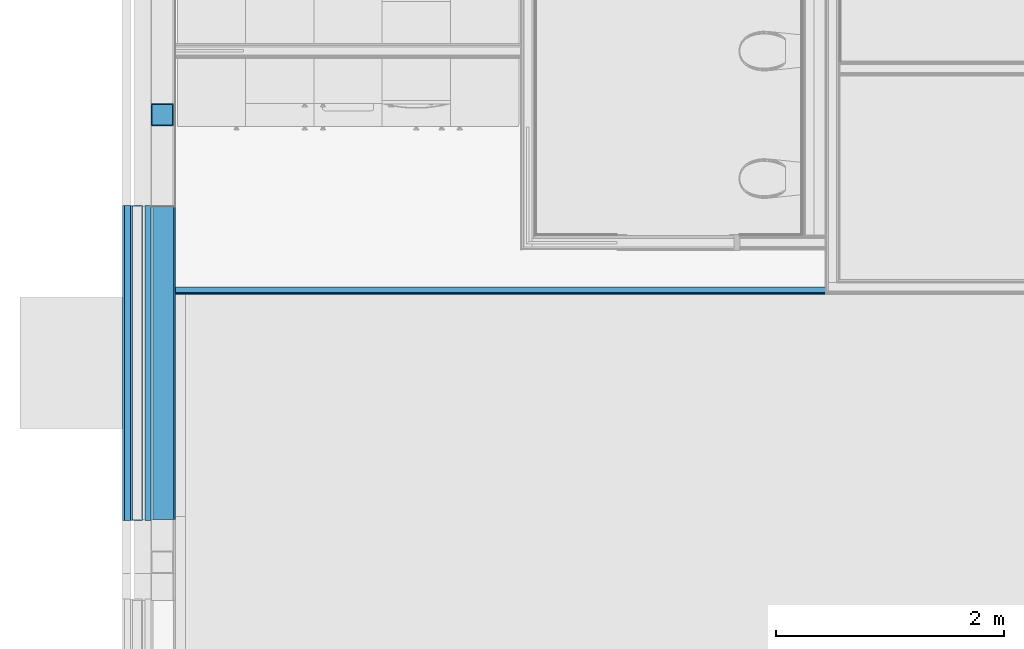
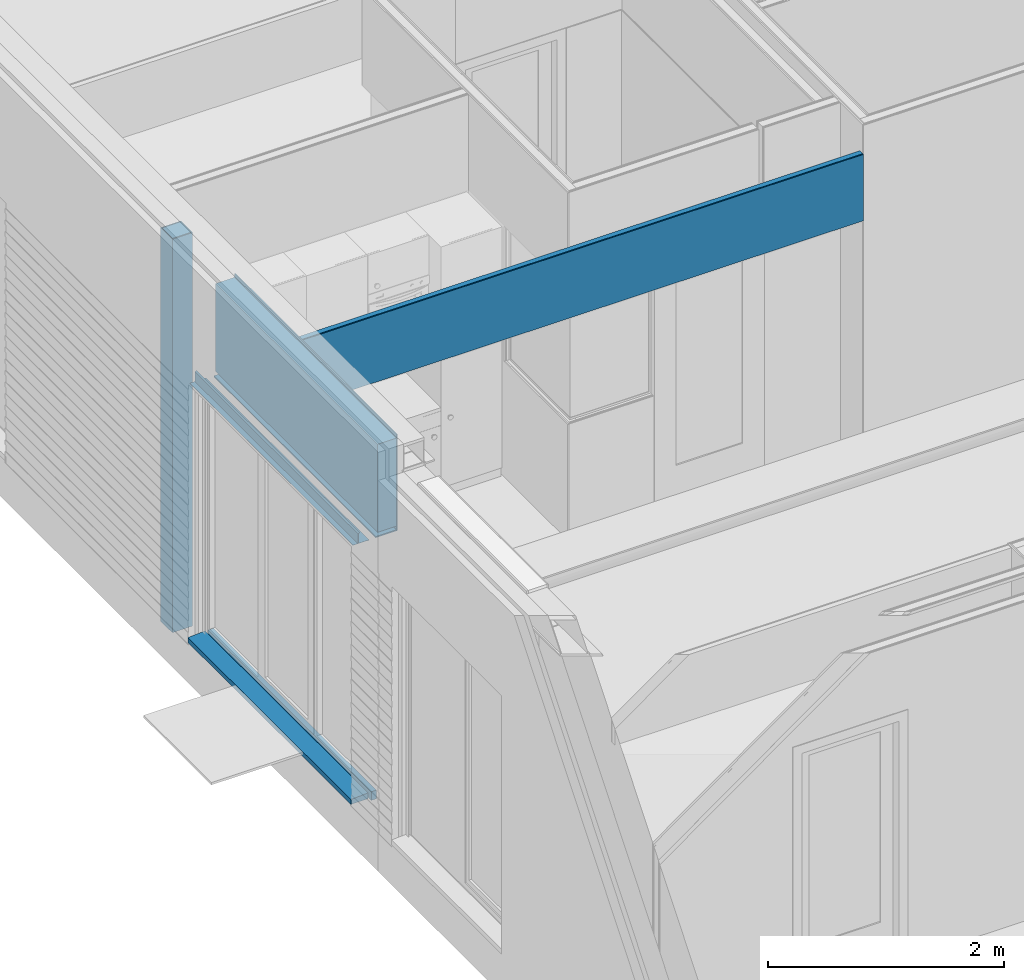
# One storey, part 51 of 165: 11 building element parts, 5 elements without a shape of their own.
"""IFC2X3 building model written with IfcOpenShell, lengths in millimetres."""

import ifcopenshell
import ifcopenshell.guid

model = None  # the IFC model being written
_history = None  # IfcOwnerHistory: only IFC2X3 demands one
_inside = {}  # id of a spatial element -> (the spatial element, [elements in it])
_under = {}  # id of a project, library or spatial element -> (it, [spatial elements below it])
_declared = {}  # id of a project -> (the project, [libraries it declares])
_typed = {}  # id of a type object -> (the type object, [elements of that type])
_made_of = {}  # id of a material, layer set ... -> (it, [elements and type objects made of it])


def new_model(schema):
    """Start an empty IFC model of exactly this schema.

    Asked for "IFC4X3", IfcOpenShell would pick the latest addendum, in which some entities
    have other attributes; the version numbers below select the first issue.
    IFC2X3 requires an IfcOwnerHistory on every rooted entity: one is made here for all.
    """
    global model, _history
    if schema == "IFC4X3":
        model = ifcopenshell.file(schema_version=(4, 3, 0, 0))
    else:
        model = ifcopenshell.file(schema=schema)
    _inside.clear()
    _under.clear()
    _declared.clear()
    _typed.clear()
    _made_of.clear()
    _history = None
    if model.schema == "IFC2X3":
        org = make("IfcOrganization", Name="unknown")
        user = make(
            "IfcPersonAndOrganization",
            ThePerson=make("IfcPerson", FamilyName="unknown"),
            TheOrganization=org,
        )
        app = make(
            "IfcApplication",
            ApplicationDeveloper=org,
            Version="unknown",
            ApplicationFullName="unknown",
            ApplicationIdentifier="unknown",
        )
        _history = make(
            "IfcOwnerHistory",
            OwningUser=user,
            OwningApplication=app,
            ChangeAction="ADDED",
            CreationDate=0,
        )
    return model


def make(cls, **values):
    """One entity of the class cls with the attributes given. An attribute that is None is left unset."""
    return model.create_entity(
        cls, **{name: value for name, value in values.items() if value is not None}
    )


def entity(cls, *values):
    """Any entity or typed value of the class cls, its attributes in the order of the schema. None: left unset."""
    e = model.create_entity(cls)
    for i, value in enumerate(values):
        if value is not None:
            e[i] = value
    return e


def rooted(cls, **values):
    """An entity with a GlobalId (a new one), such as an element, a storey or a relation."""
    return make(cls, GlobalId=ifcopenshell.guid.new(), OwnerHistory=_history, **values)


def si_unit(unit_type, name, prefix=None):
    """IfcSIUnit, for example si_unit("LENGTHUNIT", "METRE", prefix="MILLI")."""
    return make("IfcSIUnit", UnitType=unit_type, Prefix=prefix, Name=name)


def converted_unit(unit_type, name, factor, base, dimensions=None, offset=None):
    """IfcConversionBasedUnit, such as the inch: factor (a typed value) times the base unit."""
    return make(
        "IfcConversionBasedUnit"
        if offset is None
        else "IfcConversionBasedUnitWithOffset",
        ConversionOffset=offset,
        Dimensions=None
        if dimensions is None
        else entity("IfcDimensionalExponents", *dimensions),
        UnitType=unit_type,
        Name=name,
        ConversionFactor=make(
            "IfcMeasureWithUnit", ValueComponent=factor, UnitComponent=base
        ),
    )


def derived_unit(unit_type, elements):
    """IfcDerivedUnit: a product of units, each with its exponent."""
    return make(
        "IfcDerivedUnit",
        Elements=[
            make("IfcDerivedUnitElement", Unit=unit, Exponent=power)
            for unit, power in elements
        ],
        UnitType=unit_type,
    )


def money_unit(currency):
    """IfcMonetaryUnit."""
    return make("IfcMonetaryUnit", Currency=currency)


def assignment(units):
    """IfcUnitAssignment: the units of a project."""
    return None if units is None else make("IfcUnitAssignment", Units=units)


def point(xyz):
    """IfcCartesianPoint."""
    return None if xyz is None else make("IfcCartesianPoint", Coordinates=xyz)


def direction(xyz):
    """IfcDirection."""
    return None if xyz is None else make("IfcDirection", DirectionRatios=xyz)


def frame(location, z_axis=None, x_axis=None):
    """IfcAxis2Placement3D, a coordinate frame: its origin and axes. An axis left out is left unset."""
    return make(
        "IfcAxis2Placement3D",
        Location=point(location),
        Axis=direction(z_axis),
        RefDirection=direction(x_axis),
    )


def origin_with_axes():
    """The frame at (0, 0, 0) with the z axis (0, 0, 1) and the x axis (1, 0, 0) written out."""
    return frame((0.0, 0.0, 0.0), z_axis=(0.0, 0.0, 1.0), x_axis=(1.0, 0.0, 0.0))


def place(relative_to, where):
    """IfcLocalPlacement: puts the frame where relative to a parent placement (None: the world)."""
    return make(
        "IfcLocalPlacement", PlacementRelTo=relative_to, RelativePlacement=where
    )


def context(
    kind, dimensions, precision=None, world=None, true_north=None, identifier=None
):
    """IfcGeometricRepresentationContext, for example the 3D "Model" context."""
    return make(
        "IfcGeometricRepresentationContext",
        ContextIdentifier=identifier,
        ContextType=kind,
        CoordinateSpaceDimension=dimensions,
        Precision=precision,
        WorldCoordinateSystem=world,
        TrueNorth=true_north,
    )


def subcontext(parent, identifier, kind, view, scale=None):
    """IfcGeometricRepresentationSubContext, for example "Body" below "Model"."""
    return make(
        "IfcGeometricRepresentationSubContext",
        ContextIdentifier=identifier,
        ContextType=kind,
        ParentContext=parent,
        TargetScale=scale,
        TargetView=view,
    )


def project(units=None, contexts=None):
    """IfcProject with its units and contexts."""
    return rooted(
        "IfcProject",
        Name="project",
        RepresentationContexts=contexts,
        UnitsInContext=assignment(units),
    )


def spatial(cls, under=None, at=None, **own):
    """A site, building, storey or space (cls), placed at a placement, below another one or the project."""
    s = rooted(cls, ObjectPlacement=at, **own)
    if under is not None:
        _under.setdefault(under.id(), (under, []))[1].append(s)
    return s


def faces_of(points, faces, orient=None, outer=None):
    """IfcFace entities. A face is a list of loops; a loop is a list of indices into points, from 0.

    orient and outer hold one flag for each loop. By default every Orientation is true, the
    first loop of a face is its IfcFaceOuterBound and the others are IfcFaceBound.
    """
    made = []
    for i, loops in enumerate(faces):
        bounds = []
        for j, loop in enumerate(loops):
            is_outer = j == 0 if outer is None else outer[i][j]
            bounds.append(
                make(
                    "IfcFaceOuterBound" if is_outer else "IfcFaceBound",
                    Bound=make("IfcPolyLoop", Polygon=[points[k] for k in loop]),
                    Orientation=True if orient is None else orient[i][j],
                )
            )
        made.append(make("IfcFace", Bounds=bounds))
    return made


def faceted_brep(points, faces, orient=None, outer=None, voids=None):
    """IfcFacetedBrep: a solid bounded by flat faces; with voids (closed shells), ...WithVoids."""
    shared = [point(p) for p in points]
    hull = make("IfcClosedShell", CfsFaces=faces_of(shared, faces, orient, outer))
    if voids is None:
        return make("IfcFacetedBrep", Outer=hull)
    return make(
        "IfcFacetedBrepWithVoids",
        Outer=hull,
        Voids=[
            make(cls, CfsFaces=faces_of(shared, fs, o, b)) for cls, fs, o, b in voids
        ],
    )


def shape(context_of_items, identifier, shape_type, items):
    """IfcShapeRepresentation: the items that make up one representation, for example the "Body"."""
    return make(
        "IfcShapeRepresentation",
        ContextOfItems=context_of_items,
        RepresentationIdentifier=identifier,
        RepresentationType=shape_type,
        Items=items,
    )


def material(Name=None, Category=None):
    """IfcMaterial."""
    return make("IfcMaterial", Name=Name, Category=Category)


def made_of(thing, what):
    """Note that an element or type object is made of a material, layer set ...; save() writes the relation."""
    if what is not None:
        _made_of.setdefault(what.id(), (what, []))[1].append(thing)
    return thing


def type_object(cls, material=None, **own):
    """A type object (cls), such as IfcWallType, which elements share."""
    return made_of(rooted(cls, **own), material)


def element(
    cls,
    number,
    at=None,
    inside=None,
    cuts=None,
    type_object=None,
    material=None,
    context=None,
    identifier="Body",
    shape_type=None,
    held_by="IfcProductDefinitionShape",
    body=None,
    shapes=None,
    **own,
):
    """One element of the class cls, such as IfcWall. Its Tag is "e" and its number.

    at: its placement. inside: the storey or other place that contains it. cuts: it is an
    opening in that element (IfcRelVoidsElement). A single representation is given by context,
    identifier, shape_type and body (its items); several are given by shapes. held_by: the class
    of the entity that holds the representations. save() writes the other relations.
    """
    e = rooted(cls, Tag="e%d" % number, ObjectPlacement=at, **own)
    if body is not None:
        shapes = [shape(context, identifier, shape_type, body)]
    if shapes is not None:
        e.Representation = make(held_by, Representations=shapes)
    if inside is not None:
        _inside.setdefault(inside.id(), (inside, []))[1].append(e)
    if cuts is not None:
        rooted(
            "IfcRelVoidsElement", RelatingBuildingElement=cuts, RelatedOpeningElement=e
        )
    if type_object is not None:
        _typed.setdefault(type_object.id(), (type_object, []))[1].append(e)
    return made_of(e, material)


def aggregate(whole, parts):
    """IfcRelAggregates: a whole, such as a stair, and the parts it consists of."""
    return rooted("IfcRelAggregates", RelatingObject=whole, RelatedObjects=parts)


def save(model, path):
    """Write the relations noted so far, then the file.

    IfcRelAggregates (storeys below a building ...), IfcRelContainedInSpatialStructure (elements
    in a storey), IfcRelDefinesByType, IfcRelAssociatesMaterial and IfcRelDeclares: one each for
    every whole, place, type object, material and project.
    """
    for whole, parts in _under.values():
        aggregate(whole, parts)
    for where, things in _inside.values():
        rooted(
            "IfcRelContainedInSpatialStructure",
            RelatedElements=things,
            RelatingStructure=where,
        )
    for kind, things in _typed.values():
        rooted("IfcRelDefinesByType", RelatedObjects=things, RelatingType=kind)
    for what, things in _made_of.values():
        rooted("IfcRelAssociatesMaterial", RelatedObjects=things, RelatingMaterial=what)
    for by, libraries in _declared.values():
        rooted("IfcRelDeclares", RelatingContext=by, RelatedDefinitions=libraries)
    model.write(path)


model = new_model("IFC2X3")

# Units and contexts
model_context = context("Model", 3, precision=0.01, world=origin_with_axes(), true_north=direction((0.0, 1.0)))
body_context = subcontext(model_context, "Body", "Model", "MODEL_VIEW")
ifc_project = project(units=[si_unit("LENGTHUNIT", "METRE", prefix="MILLI"), si_unit("AREAUNIT", "SQUARE_METRE"), si_unit("VOLUMEUNIT", "CUBIC_METRE"), converted_unit("PLANEANGLEUNIT", "DEGREE", entity("IfcPlaneAngleMeasure", 0.0174532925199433), si_unit("PLANEANGLEUNIT", "RADIAN"), dimensions=[0, 0, 0, 0, 0, 0, 0]), money_unit("EUR"), converted_unit("TIMEUNIT", "Year", entity("IfcTimeMeasure", 31556926.0), si_unit("TIMEUNIT", "SECOND"), dimensions=[0, 0, 1, 0, 0, 0, 0]), si_unit("MASSUNIT", "GRAM", prefix="KILO"), si_unit("THERMODYNAMICTEMPERATUREUNIT", "DEGREE_CELSIUS"), si_unit("LUMINOUSINTENSITYUNIT", "LUMEN"), si_unit("ENERGYUNIT", "JOULE", prefix="MEGA"), derived_unit("THERMALCONDUCTANCEUNIT", [(si_unit("POWERUNIT", "WATT"), 1), (si_unit("LENGTHUNIT", "METRE"), -1), (si_unit("THERMODYNAMICTEMPERATUREUNIT", "KELVIN"), -1)]), derived_unit("SPECIFICHEATCAPACITYUNIT", [(si_unit("ENERGYUNIT", "JOULE"), 1), (si_unit("MASSUNIT", "GRAM", prefix="KILO"), -1), (si_unit("THERMODYNAMICTEMPERATUREUNIT", "KELVIN"), -1)]), derived_unit("MASSDENSITYUNIT", [(si_unit("MASSUNIT", "GRAM", prefix="KILO"), 1), (si_unit("VOLUMEUNIT", "CUBIC_METRE"), -1)])], contexts=[model_context])

# Site, building, storey
site_placement = place(None, origin_with_axes())
site = spatial("IfcSite", under=ifc_project, at=site_placement, Name="Site", CompositionType="ELEMENT")
building_placement = place(site_placement, origin_with_axes())
building = spatial("IfcBuilding", under=site, at=building_placement, Name="Naam gebouw", CompositionType="ELEMENT")
storey_placement = place(building_placement, origin_with_axes())
storey = spatial("IfcBuildingStorey", under=building, at=storey_placement, Name="Begane grond", CompositionType="ELEMENT", Elevation=0.0)

# Column, building element parts
column_type = type_object("IfcColumnType", Name="200X200X10 200 x 200", PredefinedType="COLUMN")
column_placement = place(storey_placement, frame((99.99999999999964, 10810.00011055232, -480.0), z_axis=(0.0, 0.0, 1.0), x_axis=(1.0, 0.0, 0.0)))
column = element("IfcColumn", 1, at=column_placement, inside=storey, type_object=column_type, Name="28_Kolom-x", ObjectType="COLUMN")
ifc_material_1 = material(Name="Beton gewapend C")
building_element_part_1_placement = place(column_placement, origin_with_axes())
building_element_part_1 = element("IfcBuildingElementPart", 2, at=building_element_part_1_placement, material=ifc_material_1, Name="Beton gewapend C", context=body_context, shape_type="Brep", body=[
    faceted_brep([(-89.99999999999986, 89.99999999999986, 4059.999999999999), (89.99999999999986, 89.99999999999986, 4059.999999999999), (89.99999999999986, 89.99999999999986, 0.0), (-89.99999999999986, 89.99999999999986, 0.0), (89.99999999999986, -89.99999999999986, 4059.999999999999), (-89.99999999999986, -89.99999999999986, 4059.999999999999), (89.99999999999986, -89.99999999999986, 0.0), (-89.99999999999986, -89.99999999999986, 0.0)], [[[0, 1, 2, 3]], [[4, 1, 0, 5]], [[1, 4, 6, 2]], [[2, 6, 7, 3]], [[5, 0, 3, 7]], [[4, 5, 7, 6]]]),
    faceted_brep([(89.99999999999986, -89.99999999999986, 4074.999999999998), (89.99999999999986, 89.99999999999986, 4074.999999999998), (89.99999999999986, 89.99999999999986, 4079.999999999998), (89.99999999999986, -89.99999999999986, 4079.999999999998), (-89.99999999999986, 89.99999999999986, 4074.999999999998), (-89.99999999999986, -89.99999999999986, 4074.999999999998), (-89.99999999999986, 89.99999999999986, 4079.999999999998), (-89.99999999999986, -89.99999999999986, 4079.999999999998)], [[[0, 1, 2, 3]], [[4, 1, 0, 5]], [[1, 4, 6, 2]], [[2, 6, 7, 3]], [[5, 0, 3, 7]], [[4, 5, 7, 6]]]),
])
ifc_material_2 = material(Name="Metaal - Staal C")
building_element_part_2_placement = place(column_placement, origin_with_axes())
building_element_part_2 = element("IfcBuildingElementPart", 3, at=building_element_part_2_placement, material=ifc_material_2, Name="Metaal - Staal C", context=body_context, shape_type="Brep", body=[
    faceted_brep([(-100.0, -99.99999999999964, 0.0), (100.0, -99.99999999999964, 0.0), (100.0, -99.99999999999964, 4079.999999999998), (-100.0, -99.99999999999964, 4079.999999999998), (-100.0, 99.99999999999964, 0.0), (100.0, 99.99999999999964, 0.0), (-90.00000000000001, -89.99999999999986, 0.0), (90.00000000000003, -89.99999999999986, 0.0), (90.00000000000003, 89.99999999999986, 0.0), (-90.00000000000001, 89.99999999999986, 0.0), (100.0, 99.99999999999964, 4079.999999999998), (-100.0, 99.99999999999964, 4079.999999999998), (-90.00000000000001, -89.99999999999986, 4079.999999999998), (-90.00000000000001, 89.99999999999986, 4079.999999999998), (90.00000000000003, 89.99999999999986, 4079.999999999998), (90.00000000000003, -89.99999999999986, 4079.999999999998)], [[[0, 1, 2, 3]], [[0, 4, 5, 1], [6, 7, 8, 9]], [[1, 5, 10, 2]], [[3, 2, 10, 11], [12, 13, 14, 15]], [[4, 0, 3, 11]], [[5, 4, 11, 10]], [[7, 6, 12, 15]], [[8, 7, 15, 14]], [[9, 8, 14, 13]], [[6, 9, 13, 12]]]),
])
aggregate(column, [building_element_part_1, building_element_part_2])

# Proxy, building element parts
building_element_proxy_type = type_object("IfcBuildingElementProxyType", Name="22 Metal stud 62.5 plafond 63", PredefinedType="NOTDEFINED")
proxy_placement = place(storey_placement, frame((5924.999597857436, 9234.99995614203, 2600.0), z_axis=(0.0, 0.0, 1.0), x_axis=(-1.0, 0.0, 0.0)))
proxy = element("IfcBuildingElementProxy", 4, at=proxy_placement, inside=storey, type_object=building_element_proxy_type, Name="_Wand-x")
ifc_material_3 = material(Name="Gipsplaat")
building_element_part_3_placement = place(proxy_placement, origin_with_axes())
building_element_part_3 = element("IfcBuildingElementPart", 5, at=building_element_part_3_placement, material=ifc_material_3, Name="Gipsplaat", context=body_context, shape_type="Brep", body=[
    faceted_brep([(1.751028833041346e-05, -3.750208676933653e-05, 12.00000000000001), (-9.765858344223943e-06, -12.49999999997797, 12.00000000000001), (0.0, -12.49999999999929, 699.9999999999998), (0.0, 0.0, 699.9999999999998), (5710.999571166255, -12.49999999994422, 12.00000000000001), (5710.999597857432, 0.0004731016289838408, 12.00000000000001), (5710.999597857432, -12.50000000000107, 699.9999999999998), (5710.999597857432, 0.0, 699.9999999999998)], [[[0, 1, 2, 3]], [[4, 1, 0, 5]], [[1, 4, 6, 2]], [[2, 6, 7, 3]], [[5, 0, 3, 7]], [[4, 5, 7, 6]]]),
])
ifc_material_4 = material(Name="ALG - LICHTE SCHEIDINGSWAND")
building_element_part_4_placement = place(proxy_placement, origin_with_axes())
building_element_part_4 = element("IfcBuildingElementPart", 6, at=building_element_part_4_placement, material=ifc_material_4, Name="ALG - LICHTE SCHEIDINGSWAND", context=body_context, shape_type="Brep", body=[
    faceted_brep([(-9.765858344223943e-06, -12.49999999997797, 12.00000000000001), (-0.0001188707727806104, -62.49999999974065, 12.00000000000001), (0.0, -62.5, 699.9999999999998), (0.0, -12.49999999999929, 699.9999999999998), (5710.999464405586, -62.49999999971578, 12.00000000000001), (5710.999571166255, -12.49999999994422, 12.00000000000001), (5710.999597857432, -62.5, 699.9999999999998), (5710.999597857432, -12.50000000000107, 699.9999999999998)], [[[0, 1, 2, 3]], [[4, 1, 0, 5]], [[1, 4, 6, 2]], [[2, 6, 7, 3]], [[5, 0, 3, 7]], [[4, 5, 7, 6]]]),
])
aggregate(proxy, [building_element_part_3, building_element_part_4])

# Beam, building element part
beam_type_1 = type_object("IfcBeamType", Name="41 Latei/geveldrager 158 x 112", PredefinedType="BEAM")
beam_1_placement = place(storey_placement, frame((-179.9999850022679, 7245.0, 2610.0), z_axis=(0.0, 0.0, 1.0), x_axis=(1.0, 0.0, 0.0)))
beam_1 = element("IfcBeam", 7, at=beam_1_placement, inside=storey, type_object=beam_type_1, Name="_Regenwaterafvoer-x", ObjectType="BEAM")
building_element_part_5_placement = place(beam_1_placement, origin_with_axes())
building_element_part_5 = element("IfcBuildingElementPart", 8, at=building_element_part_5_placement, material=ifc_material_2, Name="Metaal - Staal C", context=body_context, shape_type="Brep", body=[
    faceted_brep([(-49.99999999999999, 2769.99999999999, 6.55651533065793e-07), (-49.99999999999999, 2769.99999999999, -3.000000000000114), (-49.99999999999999, 0.0, -3.000000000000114), (-49.99999999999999, 0.0, 6.55651533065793e-07), (-5.960468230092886e-08, 2769.99999999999, 6.55651533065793e-07), (-5.960468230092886e-08, 2769.99999999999, 99.3417707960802), (16.54654975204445, 2769.99999999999, 108.894926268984), (18.04655007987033, 2769.99999999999, 106.296849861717), (3.000000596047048, 2769.99999999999, 96.99999988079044), (3.000000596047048, 2769.99999999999, 6.55651533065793e-07), (3.000000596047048, 2769.99999999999, -3.000000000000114), (3.000000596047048, 0.0, -3.000000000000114), (3.000000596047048, 0.0, 6.55651533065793e-07), (3.000000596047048, 0.0, 96.99999988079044), (18.04655007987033, 0.0, 106.296849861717), (16.54654975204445, 0.0, 108.894926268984), (-5.960468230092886e-08, 0.0, 99.3417707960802), (-5.960468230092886e-08, 0.0, 6.55651533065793e-07)], [[[0, 1, 2, 3]], [[0, 4, 5, 6, 7, 8, 9, 10, 1]], [[1, 10, 11, 2]], [[3, 2, 11, 12, 13, 14, 15, 16, 17]], [[4, 0, 3, 17]], [[5, 4, 17, 16]], [[6, 5, 16, 15]], [[7, 6, 15, 14]], [[8, 7, 14, 13]], [[9, 8, 13, 12]], [[10, 9, 12, 11]]]),
])

beam_type_2 = type_object("IfcBeamType", Name="31 Betondorpel 250 x 90", PredefinedType="BEAM")
beam_2_placement = place(storey_placement, frame((-249.9999999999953, 7245.0, -100.0000000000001), z_axis=(0.0, 0.0, 1.0), x_axis=(1.0, 0.0, 0.0)))
beam_2 = element("IfcBeam", 9, at=beam_2_placement, inside=storey, type_object=beam_type_2, Name="_Regenwaterafvoer-x", ObjectType="BEAM")
ifc_material_5 = material(Name="Isolatie - Kunststof hard")
building_element_part_6_placement = place(beam_2_placement, origin_with_axes())
building_element_part_6 = element("IfcBuildingElementPart", 10, at=building_element_part_6_placement, material=ifc_material_5, Name="Isolatie - Kunststof hard", context=body_context, shape_type="Brep", body=[
    faceted_brep([(200.0, 2769.999999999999, 0.0), (250.0, 2769.999999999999, 0.0), (250.0, 0.0, 0.0), (200.0, 0.0, 0.0), (200.0, 2769.999999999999, 30.04212815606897), (200.0, 2769.999999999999, 90.00000000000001), (250.0, 2769.999999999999, 90.00000000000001), (250.0, 0.0, 90.00000000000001), (200.0, 0.0, 90.00000000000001), (200.0, 0.0, 30.04212815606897)], [[[0, 1, 2, 3]], [[0, 4, 5, 6, 1]], [[1, 6, 7, 2]], [[3, 2, 7, 8, 9]], [[4, 0, 3, 9]], [[5, 4, 9, 8]], [[6, 5, 8, 7]]]),
])

# Building element part
building_element_part_7_placement = place(beam_1_placement, origin_with_axes())
building_element_part_7 = element("IfcBuildingElementPart", 11, at=building_element_part_7_placement, material=ifc_material_2, Name="Metaal - Staal C", context=body_context, shape_type="Brep", body=[
    faceted_brep([(3.000000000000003, 2769.99999999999, -3.000000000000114), (108.0, 2769.99999999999, -3.000000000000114), (108.0, 0.0, -3.000000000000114), (3.000000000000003, 0.0, -3.000000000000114), (3.000000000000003, 2769.99999999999, 0.0), (108.0, 2769.99999999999, 0.0), (108.0, 0.0, 0.0), (3.000000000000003, 0.0, 0.0)], [[[0, 1, 2, 3]], [[0, 4, 5, 1]], [[1, 5, 6, 2]], [[3, 2, 6, 7]], [[4, 0, 3, 7]], [[5, 4, 7, 6]]]),
])

aggregate(beam_1, [building_element_part_5, building_element_part_7])

ifc_material_6 = material(Name="Beton gewapend prefab")
building_element_part_8_placement = place(beam_2_placement, origin_with_axes())
building_element_part_8 = element("IfcBuildingElementPart", 12, at=building_element_part_8_placement, material=ifc_material_6, Name="Beton gewapend prefab", context=body_context, shape_type="Brep", body=[
    faceted_brep([(0.0, 2769.999999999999, 30.04212834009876), (170.0, 2769.999999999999, 30.04212834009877), (170.0, 0.0, 30.04212834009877), (0.0, 0.0, 30.04212834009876), (0.0, 2769.999999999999, 80.04212834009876), (170.0, 2769.999999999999, 90.04212834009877), (170.0, 2769.999999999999, 90.00000000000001), (170.0, 0.0, 90.00000000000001), (170.0, 0.0, 90.04212834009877), (0.0, 0.0, 80.04212834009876)], [[[0, 1, 2, 3]], [[0, 4, 5, 6, 1]], [[1, 6, 7, 2]], [[3, 2, 7, 8, 9]], [[4, 0, 3, 9]], [[5, 4, 9, 8]], [[6, 5, 8, 7]]]),
])

aggregate(beam_2, [building_element_part_6, building_element_part_8])

# Beam, building element parts
beam_type_3 = type_object("IfcBeamType", Name="31 HSB boven kozijnen 214 x 1000", PredefinedType="BEAM")
beam_3_placement = place(storey_placement, frame((214.0000000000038, 10005.0, 2600.000000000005), z_axis=(0.0, 0.0, 1.0), x_axis=(-1.0, 0.0, 0.0)))
beam_3 = element("IfcBeam", 13, at=beam_3_placement, inside=storey, type_object=beam_type_3, Name="28_Balk-x", ObjectType="BEAM")
building_element_part_9_placement = place(beam_3_placement, origin_with_axes())
building_element_part_9 = element("IfcBuildingElementPart", 14, at=building_element_part_9_placement, material=ifc_material_3, Name="Gipsplaat", context=body_context, shape_type="Brep", body=[
    faceted_brep([(11.99999661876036, 2750.0, 999.9999999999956), (-9.34170973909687e-06, 2750.0, 999.9999999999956), (-9.34170973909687e-06, 0.0, 999.9999999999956), (11.99999661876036, 0.0, 999.9999999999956), (11.99999661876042, 2750.0, 0.0), (-9.34170968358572e-06, 2750.0, 0.0), (-9.34170968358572e-06, 0.0, 0.0), (11.99999661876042, 0.0, 0.0)], [[[0, 1, 2, 3]], [[0, 4, 5, 1]], [[1, 5, 6, 2]], [[3, 2, 6, 7]], [[4, 0, 3, 7]], [[5, 4, 7, 6]]]),
])
ifc_material_7 = material(Name="ALG - ISOLATIE")
building_element_part_10_placement = place(beam_3_placement, origin_with_axes())
building_element_part_10 = element("IfcBuildingElementPart", 15, at=building_element_part_10_placement, material=ifc_material_7, Name="ALG - ISOLATIE", context=body_context, shape_type="Brep", body=[
    faceted_brep([(195.9999999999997, 2750.0, 49.99999999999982), (195.9999999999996, 2750.0, 961.9999999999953), (195.9999999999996, 0.0, 961.9999999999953), (195.9999999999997, 0.0, 49.99999999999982), (11.99999999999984, 2750.0, 49.99999999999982), (11.99999999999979, 2750.0, 961.9999999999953), (11.99999999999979, 0.0, 961.9999999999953), (11.99999999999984, 0.0, 49.99999999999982)], [[[0, 1, 2, 3]], [[0, 4, 5, 1]], [[1, 5, 6, 2]], [[3, 2, 6, 7]], [[4, 0, 3, 7]], [[5, 4, 7, 6]]]),
])
building_element_part_11_placement = place(beam_3_placement, origin_with_axes())
building_element_part_11 = element("IfcBuildingElementPart", 16, at=building_element_part_11_placement, material=ifc_material_3, Name="Gipsplaat", context=body_context, shape_type="Brep", body=[
    faceted_brep([(11.99999661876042, 2750.0, 12.00000596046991), (11.99999661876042, 2750.0, 0.0), (11.99999661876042, 0.0, 0.0), (11.99999661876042, 0.0, 12.00000596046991), (214.0000025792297, 2750.0, 12.00000596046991), (214.0000025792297, 2750.0, 0.0), (214.0000025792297, 0.0, 0.0), (214.0000025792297, 0.0, 12.00000596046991)], [[[0, 1, 2, 3]], [[0, 4, 5, 1]], [[1, 5, 6, 2]], [[3, 2, 6, 7]], [[4, 0, 3, 7]], [[5, 4, 7, 6]]]),
])
aggregate(beam_3, [building_element_part_9, building_element_part_10, building_element_part_11])

save(model, "model.ifc")
